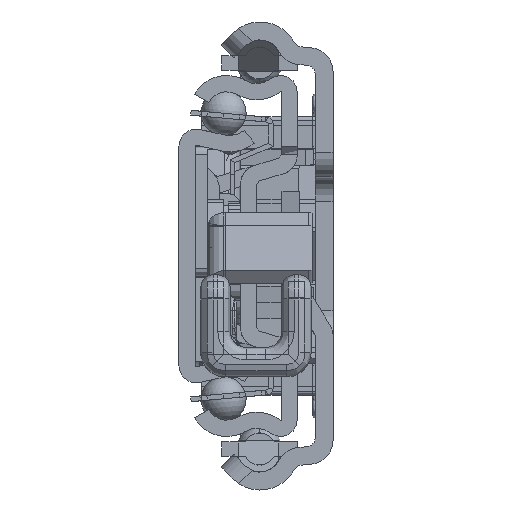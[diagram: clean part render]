
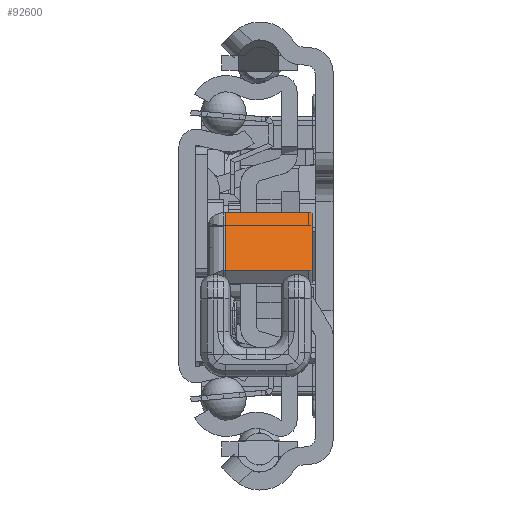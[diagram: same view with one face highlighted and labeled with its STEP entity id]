
A CAD part, left-side view. The second image highlights one B-rep face of the part: STEP entity #92600.
In plain terms, the highlighted planar face has unit normal (-0.597, 0, 0.802) as drawn and (-0.597, -0.802, 0) by its records, which use the part's own axes.
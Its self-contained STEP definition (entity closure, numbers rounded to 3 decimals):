
#91988=DIRECTION('',(0.802,-0.597,0.));
#91989=VECTOR('',#91988,12.);
#91990=CARTESIAN_POINT('',(31.957,-10.314,-0.2));
#91991=LINE('',#91990,#91989);
#92016=DIRECTION('',(0.,0.,1.));
#92017=VECTOR('',#92016,10.3);
#92018=CARTESIAN_POINT('',(41.586,-17.476,-10.5));
#92019=LINE('',#92018,#92017);
#92020=CARTESIAN_POINT('',(41.184,-17.178,-10.5));
#92021=DIRECTION('',(-0.597,-0.802,0.));
#92022=DIRECTION('',(0.,0.,-1.));
#92023=AXIS2_PLACEMENT_3D('',#92020,#92021,#92022);
#92025=DIRECTION('',(0.802,-0.597,0.));
#92026=VECTOR('',#92025,11.);
#92027=CARTESIAN_POINT('',(32.358,-10.613,-11.));
#92028=LINE('',#92027,#92026);
#92029=CARTESIAN_POINT('',(32.358,-10.613,-10.5));
#92030=DIRECTION('',(-0.597,-0.802,0.));
#92031=DIRECTION('',(-0.802,0.597,0.));
#92032=AXIS2_PLACEMENT_3D('',#92029,#92030,#92031);
#92034=DIRECTION('',(0.,0.,-1.));
#92035=VECTOR('',#92034,10.3);
#92036=CARTESIAN_POINT('',(31.957,-10.314,-0.2));
#92037=LINE('',#92036,#92035);
#92254=CARTESIAN_POINT('',(31.957,-10.314,-0.2));
#92255=CARTESIAN_POINT('',(41.586,-17.476,-0.2));
#92256=VERTEX_POINT('',#92254);
#92257=VERTEX_POINT('',#92255);
#92286=CARTESIAN_POINT('',(41.586,-17.476,-10.5));
#92287=VERTEX_POINT('',#92286);
#92288=CARTESIAN_POINT('',(32.358,-10.613,-11.));
#92289=CARTESIAN_POINT('',(41.184,-17.178,-11.));
#92290=VERTEX_POINT('',#92288);
#92291=VERTEX_POINT('',#92289);
#92292=CARTESIAN_POINT('',(31.957,-10.314,-10.5));
#92293=VERTEX_POINT('',#92292);
#92582=CARTESIAN_POINT('',(34.726,-12.374,2.));
#92583=DIRECTION('',(0.597,0.802,0.));
#92584=DIRECTION('',(0.802,-0.597,0.));
#92585=AXIS2_PLACEMENT_3D('',#92582,#92583,#92584);
#92586=PLANE('',#92585);
#92588=ORIENTED_EDGE('',*,*,#92587,.F.);
#92590=ORIENTED_EDGE('',*,*,#92589,.F.);
#92592=ORIENTED_EDGE('',*,*,#92591,.F.);
#92594=ORIENTED_EDGE('',*,*,#92593,.F.);
#92596=ORIENTED_EDGE('',*,*,#92595,.F.);
#92597=ORIENTED_EDGE('',*,*,#92569,.T.);
#92598=EDGE_LOOP('',(#92588,#92590,#92592,#92594,#92596,#92597));
#92599=FACE_OUTER_BOUND('',#92598,.F.);
#92024=CIRCLE('',#92023,0.5);
#92033=CIRCLE('',#92032,0.5);
#92569=EDGE_CURVE('',#92256,#92257,#91991,.T.);
#92587=EDGE_CURVE('',#92287,#92257,#92019,.T.);
#92589=EDGE_CURVE('',#92291,#92287,#92024,.T.);
#92591=EDGE_CURVE('',#92290,#92291,#92028,.T.);
#92593=EDGE_CURVE('',#92293,#92290,#92033,.T.);
#92595=EDGE_CURVE('',#92256,#92293,#92037,.T.);
#92600=ADVANCED_FACE('',(#92599),#92586,.F.);
